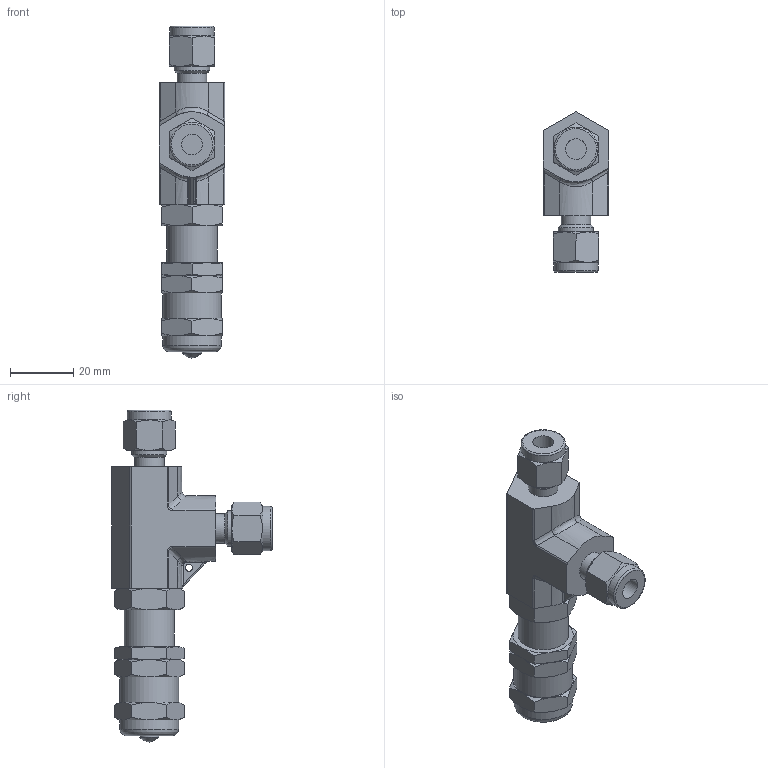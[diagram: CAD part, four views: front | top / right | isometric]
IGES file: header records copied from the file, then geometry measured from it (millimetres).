
Global section: file name: SRV-S4; native system: Autodesk Inventor 2016; preprocessor: unknown; author: 이승민,,11,0; organization: 20161227.102347; date: 20161229.080827; units: millimetre
Bounding box: 20.6 x 50.56 x 104.64 mm (x, y, z)
Volume: 29745.5 mm3; surface area: 14192.3 mm2
Topology: 5 solids, 5 shells, 242 faces, 587 edges, 375 vertices
Faces by surface type: bspline 242
